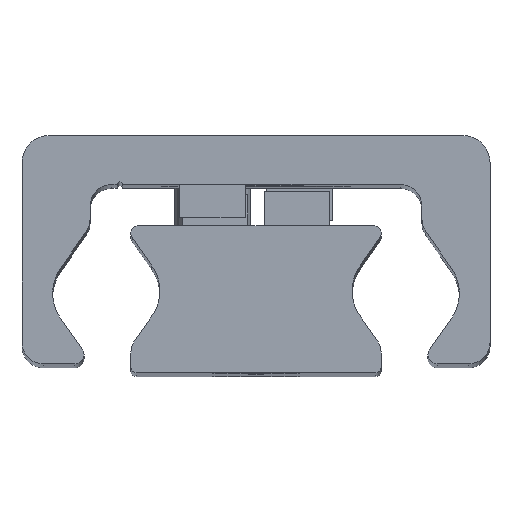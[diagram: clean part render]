
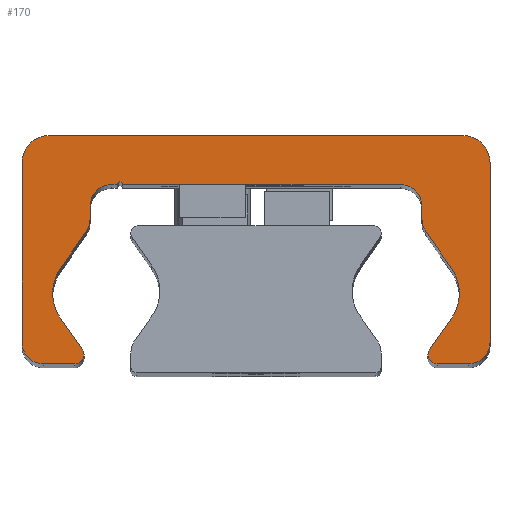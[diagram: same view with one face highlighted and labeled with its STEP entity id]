
A CAD part, top view. The second image highlights one B-rep face of the part: STEP entity #170.
In plain terms, the highlighted planar face has unit normal (0, 0, 1).
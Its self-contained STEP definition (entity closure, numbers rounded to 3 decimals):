
#170=ADVANCED_FACE('',(#400),#401,.T.);
#400=FACE_OUTER_BOUND('',#631,.T.);
#401=PLANE('',#632);
#631=EDGE_LOOP('',(#1442,#1443,#1444,#1445,#1446,#1447,#1448,#1449,#1450,#1451,#1452,#1453,#1454,#1455,#1456,#1457,#1458,#1459,#1460,#1461,#1462,#1463,#1464,#1465,#1466,#1467,#1468,#1469,#1470,#1471));
#632=AXIS2_PLACEMENT_3D('',#1472,#1473,#1474);
#1442=ORIENTED_EDGE('',*,*,#1649,.F.);
#1443=ORIENTED_EDGE('',*,*,#1782,.F.);
#1444=ORIENTED_EDGE('',*,*,#1635,.F.);
#1445=ORIENTED_EDGE('',*,*,#1781,.F.);
#1446=ORIENTED_EDGE('',*,*,#1777,.F.);
#1447=ORIENTED_EDGE('',*,*,#1774,.F.);
#1448=ORIENTED_EDGE('',*,*,#1771,.F.);
#1449=ORIENTED_EDGE('',*,*,#1768,.F.);
#1450=ORIENTED_EDGE('',*,*,#1765,.F.);
#1451=ORIENTED_EDGE('',*,*,#1762,.F.);
#1452=ORIENTED_EDGE('',*,*,#1759,.F.);
#1453=ORIENTED_EDGE('',*,*,#1756,.F.);
#1454=ORIENTED_EDGE('',*,*,#1753,.F.);
#1455=ORIENTED_EDGE('',*,*,#1750,.F.);
#1456=ORIENTED_EDGE('',*,*,#1641,.F.);
#1457=ORIENTED_EDGE('',*,*,#1748,.F.);
#1458=ORIENTED_EDGE('',*,*,#1643,.F.);
#1459=ORIENTED_EDGE('',*,*,#1747,.F.);
#1460=ORIENTED_EDGE('',*,*,#1743,.F.);
#1461=ORIENTED_EDGE('',*,*,#1740,.F.);
#1462=ORIENTED_EDGE('',*,*,#1737,.F.);
#1463=ORIENTED_EDGE('',*,*,#1734,.F.);
#1464=ORIENTED_EDGE('',*,*,#1731,.F.);
#1465=ORIENTED_EDGE('',*,*,#1728,.F.);
#1466=ORIENTED_EDGE('',*,*,#1725,.F.);
#1467=ORIENTED_EDGE('',*,*,#1722,.F.);
#1468=ORIENTED_EDGE('',*,*,#1719,.F.);
#1469=ORIENTED_EDGE('',*,*,#1716,.F.);
#1470=ORIENTED_EDGE('',*,*,#1713,.F.);
#1471=ORIENTED_EDGE('',*,*,#1710,.F.);
#1472=CARTESIAN_POINT('',(-0.023,14.187,87.0));
#1473=DIRECTION('',(0.0,0.0,1.0));
#1474=DIRECTION('',(1.0,0.0,0.0));
#1635=EDGE_CURVE('',#1990,#1993,#1994,.T.);
#1641=EDGE_CURVE('',#2003,#1999,#2005,.T.);
#1643=EDGE_CURVE('',#2006,#2009,#2010,.T.);
#1649=EDGE_CURVE('',#2019,#2015,#2021,.T.);
#1710=EDGE_CURVE('',#2015,#2120,#2121,.T.);
#1713=EDGE_CURVE('',#2120,#2125,#2126,.T.);
#1716=EDGE_CURVE('',#2125,#2130,#2131,.T.);
#1719=EDGE_CURVE('',#2130,#2135,#2136,.T.);
#1722=EDGE_CURVE('',#2135,#2140,#2141,.T.);
#1725=EDGE_CURVE('',#2140,#2145,#2146,.T.);
#1728=EDGE_CURVE('',#2145,#2150,#2151,.T.);
#1731=EDGE_CURVE('',#2150,#2155,#2156,.T.);
#1734=EDGE_CURVE('',#2155,#2160,#2161,.T.);
#1737=EDGE_CURVE('',#2160,#2165,#2166,.T.);
#1740=EDGE_CURVE('',#2165,#2170,#2171,.T.);
#1743=EDGE_CURVE('',#2170,#2175,#2176,.T.);
#1747=EDGE_CURVE('',#2175,#2006,#2181,.T.);
#1748=EDGE_CURVE('',#2009,#2003,#2182,.T.);
#1750=EDGE_CURVE('',#1999,#2184,#2185,.T.);
#1753=EDGE_CURVE('',#2184,#2189,#2190,.T.);
#1756=EDGE_CURVE('',#2189,#2194,#2195,.T.);
#1759=EDGE_CURVE('',#2194,#2199,#2200,.T.);
#1762=EDGE_CURVE('',#2199,#2204,#2205,.T.);
#1765=EDGE_CURVE('',#2204,#2209,#2210,.T.);
#1768=EDGE_CURVE('',#2209,#2214,#2215,.T.);
#1771=EDGE_CURVE('',#2214,#2219,#2220,.T.);
#1774=EDGE_CURVE('',#2219,#2224,#2225,.T.);
#1777=EDGE_CURVE('',#2224,#2229,#2230,.T.);
#1781=EDGE_CURVE('',#2229,#1990,#2235,.T.);
#1782=EDGE_CURVE('',#1993,#2019,#2236,.T.);
#1990=VERTEX_POINT('',#2522);
#1993=VERTEX_POINT('',#2526);
#1994=CIRCLE('',#2527,0.85);
#1999=VERTEX_POINT('',#2533);
#2003=VERTEX_POINT('',#2538);
#2005=CIRCLE('',#2541,0.85);
#2006=VERTEX_POINT('',#2542);
#2009=VERTEX_POINT('',#2546);
#2010=CIRCLE('',#2547,4.);
#2015=VERTEX_POINT('',#2553);
#2019=VERTEX_POINT('',#2558);
#2021=CIRCLE('',#2561,4.);
#2120=VERTEX_POINT('',#2698);
#2121=CIRCLE('',#2699,4.);
#2125=VERTEX_POINT('',#2704);
#2126=LINE('',#2705,#2706);
#2130=VERTEX_POINT('',#2712);
#2131=CIRCLE('',#2713,2.);
#2135=VERTEX_POINT('',#2718);
#2136=LINE('',#2719,#2720);
#2140=VERTEX_POINT('',#2726);
#2141=CIRCLE('',#2727,2.0);
#2145=VERTEX_POINT('',#2732);
#2146=LINE('',#2733,#2734);
#2150=VERTEX_POINT('',#2740);
#2151=CIRCLE('',#2741,0.25);
#2155=VERTEX_POINT('',#2746);
#2156=LINE('',#2747,#2748);
#2160=VERTEX_POINT('',#2754);
#2161=CIRCLE('',#2755,2.0);
#2165=VERTEX_POINT('',#2760);
#2166=LINE('',#2761,#2762);
#2170=VERTEX_POINT('',#2768);
#2171=CIRCLE('',#2769,2.0);
#2175=VERTEX_POINT('',#2774);
#2176=LINE('',#2775,#2776);
#2181=CIRCLE('',#2783,4.);
#2182=LINE('',#2784,#2785);
#2184=VERTEX_POINT('',#2788);
#2185=CIRCLE('',#2789,0.85);
#2189=VERTEX_POINT('',#2794);
#2190=LINE('',#2795,#2796);
#2194=VERTEX_POINT('',#2802);
#2195=CIRCLE('',#2803,2.);
#2199=VERTEX_POINT('',#2808);
#2200=LINE('',#2809,#2810);
#2204=VERTEX_POINT('',#2816);
#2205=CIRCLE('',#2817,2.5);
#2209=VERTEX_POINT('',#2822);
#2210=LINE('',#2823,#2824);
#2214=VERTEX_POINT('',#2830);
#2215=CIRCLE('',#2831,2.5);
#2219=VERTEX_POINT('',#2836);
#2220=LINE('',#2837,#2838);
#2224=VERTEX_POINT('',#2844);
#2225=CIRCLE('',#2845,2.);
#2229=VERTEX_POINT('',#2850);
#2230=LINE('',#2851,#2852);
#2235=CIRCLE('',#2859,0.85);
#2236=LINE('',#2860,#2861);
#2522=CARTESIAN_POINT('',(15.8,1.859,87.0));
#2526=CARTESIAN_POINT('',(15.922,2.298,87.0));
#2527=AXIS2_PLACEMENT_3D('',#3087,#3088,#3089);
#2533=CARTESIAN_POINT('',(-15.8,1.859,87.0));
#2538=CARTESIAN_POINT('',(-15.922,2.298,87.0));
#2541=AXIS2_PLACEMENT_3D('',#3099,#3100,#3101);
#2542=CARTESIAN_POINT('',(-18.688,7.509,87.0));
#2546=CARTESIAN_POINT('',(-17.964,5.214,87.0));
#2547=AXIS2_PLACEMENT_3D('',#3103,#3104,#3105);
#2553=CARTESIAN_POINT('',(18.688,7.509,87.0));
#2558=CARTESIAN_POINT('',(17.964,5.214,87.0));
#2561=AXIS2_PLACEMENT_3D('',#3115,#3116,#3117);
#2698=CARTESIAN_POINT('',(17.964,9.803,87.0));
#2699=AXIS2_PLACEMENT_3D('',#3222,#3223,#3224);
#2704=CARTESIAN_POINT('',(15.612,13.163,87.0));
#2705=CARTESIAN_POINT('',(15.612,13.163,87.0));
#2706=VECTOR('',#3229,1.0);
#2712=CARTESIAN_POINT('',(15.25,14.31,87.0));
#2713=AXIS2_PLACEMENT_3D('',#3232,#3233,#3234);
#2718=CARTESIAN_POINT('',(15.25,15.509,87.0));
#2719=CARTESIAN_POINT('',(15.25,15.509,87.0));
#2720=VECTOR('',#3239,1.0);
#2726=CARTESIAN_POINT('',(13.25,17.509,87.0));
#2727=AXIS2_PLACEMENT_3D('',#3242,#3243,#3244);
#2732=CARTESIAN_POINT('',(-12.25,17.509,87.0));
#2733=CARTESIAN_POINT('',(-12.25,17.509,87.0));
#2734=VECTOR('',#3249,1.0);
#2740=CARTESIAN_POINT('',(-12.75,17.509,87.0));
#2741=AXIS2_PLACEMENT_3D('',#3252,#3253,#3254);
#2746=CARTESIAN_POINT('',(-13.25,17.509,87.0));
#2747=CARTESIAN_POINT('',(-13.25,17.509,87.0));
#2748=VECTOR('',#3259,1.0);
#2754=CARTESIAN_POINT('',(-15.25,15.509,87.0));
#2755=AXIS2_PLACEMENT_3D('',#3262,#3263,#3264);
#2760=CARTESIAN_POINT('',(-15.25,14.31,87.0));
#2761=CARTESIAN_POINT('',(-15.25,14.31,87.0));
#2762=VECTOR('',#3269,1.0);
#2768=CARTESIAN_POINT('',(-15.612,13.163,87.0));
#2769=AXIS2_PLACEMENT_3D('',#3272,#3273,#3274);
#2774=CARTESIAN_POINT('',(-17.964,9.803,87.0));
#2775=CARTESIAN_POINT('',(-17.964,9.803,87.0));
#2776=VECTOR('',#3279,1.);
#2783=AXIS2_PLACEMENT_3D('',#3285,#3286,#3287);
#2784=CARTESIAN_POINT('',(-15.922,2.298,87.0));
#2785=VECTOR('',#3288,1.0);
#2788=CARTESIAN_POINT('',(-16.65,1.009,87.0));
#2789=AXIS2_PLACEMENT_3D('',#3290,#3291,#3292);
#2794=CARTESIAN_POINT('',(-19.5,1.009,87.0));
#2795=CARTESIAN_POINT('',(-19.5,1.009,87.0));
#2796=VECTOR('',#3297,1.0);
#2802=CARTESIAN_POINT('',(-21.5,3.009,87.0));
#2803=AXIS2_PLACEMENT_3D('',#3300,#3301,#3302);
#2808=CARTESIAN_POINT('',(-21.5,19.509,87.0));
#2809=CARTESIAN_POINT('',(-21.5,19.509,87.0));
#2810=VECTOR('',#3307,1.0);
#2816=CARTESIAN_POINT('',(-19.0,22.009,87.0));
#2817=AXIS2_PLACEMENT_3D('',#3310,#3311,#3312);
#2822=CARTESIAN_POINT('',(19.0,22.009,87.0));
#2823=CARTESIAN_POINT('',(19.0,22.009,87.0));
#2824=VECTOR('',#3317,1.0);
#2830=CARTESIAN_POINT('',(21.5,19.509,87.0));
#2831=AXIS2_PLACEMENT_3D('',#3320,#3321,#3322);
#2836=CARTESIAN_POINT('',(21.5,3.009,87.0));
#2837=CARTESIAN_POINT('',(21.5,3.009,87.0));
#2838=VECTOR('',#3327,1.0);
#2844=CARTESIAN_POINT('',(19.5,1.009,87.0));
#2845=AXIS2_PLACEMENT_3D('',#3330,#3331,#3332);
#2850=CARTESIAN_POINT('',(16.65,1.009,87.0));
#2851=CARTESIAN_POINT('',(16.65,1.009,87.0));
#2852=VECTOR('',#3337,1.0);
#2859=AXIS2_PLACEMENT_3D('',#3343,#3344,#3345);
#2860=CARTESIAN_POINT('',(17.964,5.214,87.0));
#2861=VECTOR('',#3346,1.0);
#3087=CARTESIAN_POINT('',(16.65,1.859,87.0));
#3088=DIRECTION('',(0.0,0.0,-1.0));
#3089=DIRECTION('',(1.0,0.0,0.0));
#3099=CARTESIAN_POINT('',(-16.65,1.859,87.0));
#3100=DIRECTION('',(0.0,0.0,-1.0));
#3101=DIRECTION('',(1.0,0.0,0.0));
#3103=CARTESIAN_POINT('',(-14.688,7.509,87.0));
#3104=DIRECTION('',(0.0,0.0,1.0));
#3105=DIRECTION('',(1.0,0.0,0.0));
#3115=CARTESIAN_POINT('',(14.688,7.509,87.0));
#3116=DIRECTION('',(0.0,0.0,1.0));
#3117=DIRECTION('',(1.0,0.0,0.0));
#3222=CARTESIAN_POINT('',(14.688,7.509,87.0));
#3223=DIRECTION('',(0.0,0.0,1.0));
#3224=DIRECTION('',(1.0,0.0,0.0));
#3229=DIRECTION('',(-0.574,0.819,0.0));
#3232=CARTESIAN_POINT('',(17.25,14.31,87.0));
#3233=DIRECTION('',(0.0,0.0,-1.0));
#3234=DIRECTION('',(1.0,0.0,0.0));
#3239=DIRECTION('',(0.0,1.0,0.0));
#3242=CARTESIAN_POINT('',(13.25,15.509,87.0));
#3243=DIRECTION('',(0.0,0.0,1.0));
#3244=DIRECTION('',(1.0,0.0,0.0));
#3249=DIRECTION('',(-1.0,-0.0,-0.0));
#3252=CARTESIAN_POINT('',(-12.5,17.509,87.0));
#3253=DIRECTION('',(0.0,0.0,1.0));
#3254=DIRECTION('',(1.0,0.0,0.0));
#3259=DIRECTION('',(-1.0,-0.0,-0.0));
#3262=CARTESIAN_POINT('',(-13.25,15.509,87.0));
#3263=DIRECTION('',(0.0,0.0,1.0));
#3264=DIRECTION('',(1.0,0.0,0.0));
#3269=DIRECTION('',(-0.0,-1.0,-0.0));
#3272=CARTESIAN_POINT('',(-17.25,14.31,87.0));
#3273=DIRECTION('',(0.0,0.0,-1.0));
#3274=DIRECTION('',(1.0,0.0,0.0));
#3279=DIRECTION('',(-0.574,-0.819,-0.0));
#3285=CARTESIAN_POINT('',(-14.688,7.509,87.0));
#3286=DIRECTION('',(0.0,0.0,1.0));
#3287=DIRECTION('',(1.0,0.0,0.0));
#3288=DIRECTION('',(0.574,-0.819,0.0));
#3290=CARTESIAN_POINT('',(-16.65,1.859,87.0));
#3291=DIRECTION('',(0.0,0.0,-1.0));
#3292=DIRECTION('',(1.0,0.0,0.0));
#3297=DIRECTION('',(-1.0,-0.0,-0.0));
#3300=CARTESIAN_POINT('',(-19.5,3.009,87.0));
#3301=DIRECTION('',(0.0,0.0,-1.0));
#3302=DIRECTION('',(1.0,0.0,0.0));
#3307=DIRECTION('',(0.0,1.0,0.0));
#3310=CARTESIAN_POINT('',(-19.0,19.509,87.0));
#3311=DIRECTION('',(0.0,0.0,-1.0));
#3312=DIRECTION('',(1.0,0.0,0.0));
#3317=DIRECTION('',(1.0,0.0,0.0));
#3320=CARTESIAN_POINT('',(19.0,19.509,87.0));
#3321=DIRECTION('',(0.0,0.0,-1.0));
#3322=DIRECTION('',(1.0,0.0,0.0));
#3327=DIRECTION('',(-0.0,-1.0,-0.0));
#3330=CARTESIAN_POINT('',(19.5,3.009,87.0));
#3331=DIRECTION('',(0.0,0.0,-1.0));
#3332=DIRECTION('',(1.0,0.0,0.0));
#3337=DIRECTION('',(-1.0,-0.0,-0.0));
#3343=CARTESIAN_POINT('',(16.65,1.859,87.0));
#3344=DIRECTION('',(0.0,0.0,-1.0));
#3345=DIRECTION('',(1.0,0.0,0.0));
#3346=DIRECTION('',(0.574,0.819,0.0));
